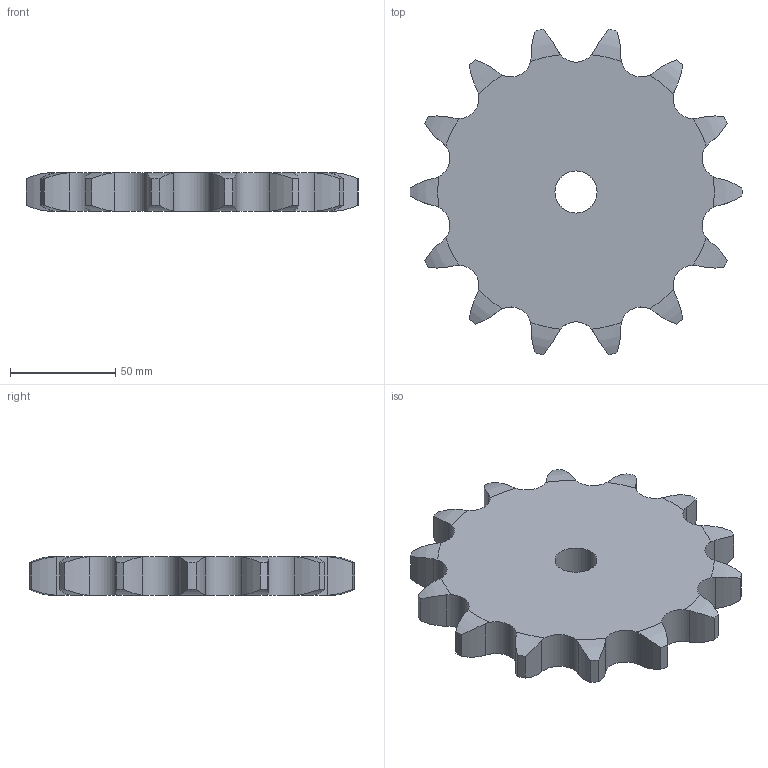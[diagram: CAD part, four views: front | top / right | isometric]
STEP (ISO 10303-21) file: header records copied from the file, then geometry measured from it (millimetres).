
FILE_DESCRIPTION((''),'2;1');
FILE_NAME('500-601-0014_PRT','2021-02-12T',('Brieden'),('Brieden'),'PRO/ENGINEER BY PARAMETRIC TECHNOLOGY CORPORATION, 2010160','PRO/ENGINEER BY PARAMETRIC TECHNOLOGY CORPORATION, 2010160','');
FILE_SCHEMA(('AUTOMOTIVE_DESIGN { 1 0 10303 214 1 1 1 1 }'));
Length unit declared in the file: millimetre
Products named in the file (1): 500-601-0014_PRT
Bounding box: 157.79 x 154.66 x 18.5 mm (x, y, z)
Volume: 265622.7 mm3; surface area: 42143.1 mm2
Topology: 1 solids, 1 shells, 88 faces, 258 edges, 172 vertices
Faces by surface type: cylinder 58, torus 28, plane 2
Entity records: 4256 total; most frequent: CARTESIAN_POINT 1203, ORIENTED_EDGE 516, DIRECTION 410, PRESENTATION_STYLE_ASSIGNMENT 259, STYLED_ITEM 259, CURVE_STYLE 258, EDGE_CURVE 258, AXIS2_PLACEMENT_3D 176
